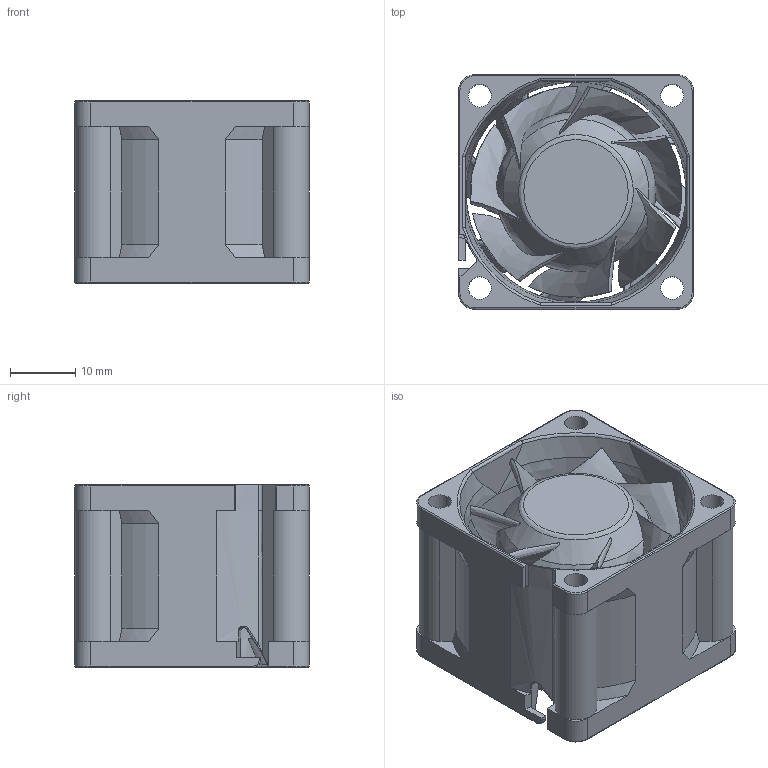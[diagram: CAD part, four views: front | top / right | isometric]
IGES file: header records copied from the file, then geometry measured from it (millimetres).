
Global section: file name: 3628GV_RIBBED.igs; native system: THINKDESIGN 2013.1.116; preprocessor: PDElib Version v7.0, created Thu 05/02/2013 16:22:51.38; date: 20170412.135007; units: millimetre
Bounding box: 36 x 36 x 28 mm (x, y, z)
Volume: 20424.4 mm3; surface area: 14005.7 mm2
Topology: 1 solids, 1 shells, 235 faces, 699 edges, 460 vertices
Faces by surface type: bspline 175, extrusion 60
